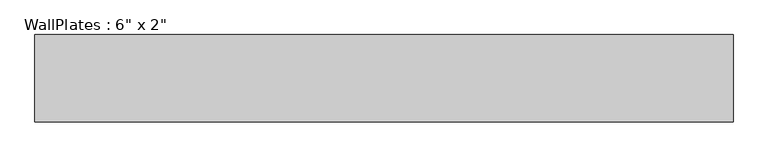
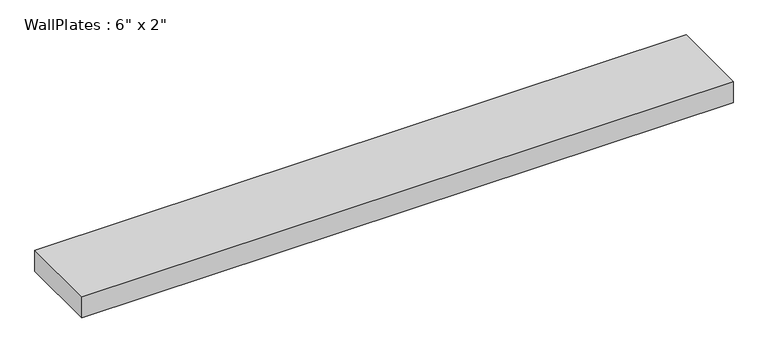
"""IFC4 building model written with IfcOpenShell, lengths in millimetres: beam geometry."""

from ifc_helpers import new_model, si_unit, frame, origin, place, context, project, spatial, polyline, outline, extrude, source, transform, mapped, element, save


def beam_af26c5b7(model_context):
    return source(origin(), model_context, "Body", "SweptSolid", [
        extrude(outline(polyline([(-558.805, -69.85), (-558.805, 69.85), (558.805, 69.85), (558.805, -69.85), (-558.805, -69.85)])), frame((0.0, 0.0, -19.05), z_axis=(0.0, 0.0, 1.0), x_axis=(1.0, 0.0, 0.0)), (0.0, 0.0, 1.0), 38.1),
    ])


if __name__ == "__main__":
    model = new_model("IFC4")
    model_context = context("Model", 3, world=origin())
    ifc_project = project(units=[si_unit("LENGTHUNIT", "METRE", prefix="MILLI")], contexts=[model_context])
    site = spatial("IfcSite", under=ifc_project)
    building = spatial("IfcBuilding", under=site)
    placement = place(None, origin())
    beam_shape = beam_af26c5b7(model_context)
    element("IfcBeam", 1, ObjectType="WallPlates : 6\" x 2\"", at=placement, inside=building, context=model_context, shape_type="MappedRepresentation", body=[
        mapped(beam_shape, transform((0.0, 0.0, 0.0), x_axis=(1.0, 0.0, 0.0), y_axis=(0.0, 1.0, 0.0), z_axis=(0.0, 0.0, 1.0))),
    ])
    save(model, "model.ifc")
